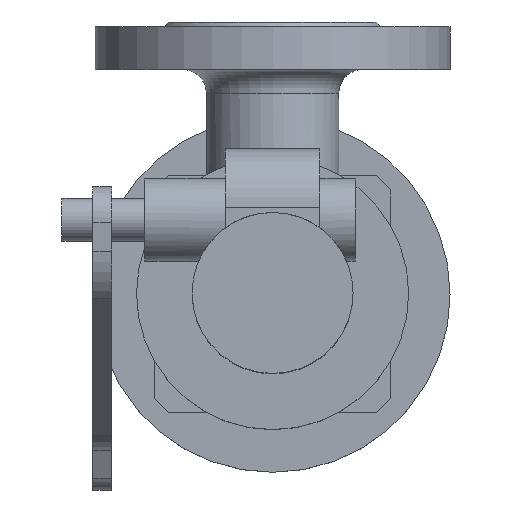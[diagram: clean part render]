
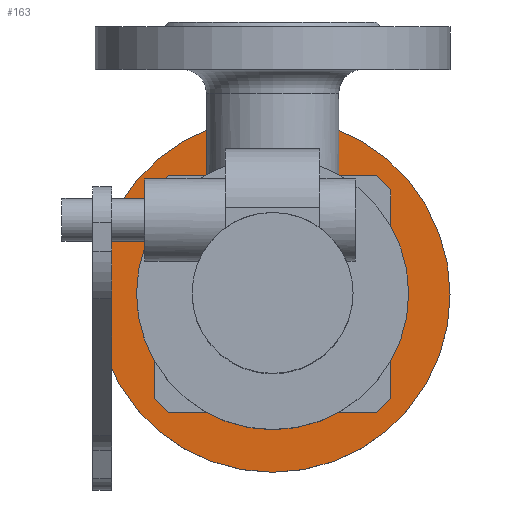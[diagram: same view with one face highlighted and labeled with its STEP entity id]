
A CAD part, top view. The second image highlights one B-rep face of the part: STEP entity #163.
In plain terms, the highlighted planar face has unit normal (0, 0, 1).
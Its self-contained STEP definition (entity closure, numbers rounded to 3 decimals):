
#163=ADVANCED_FACE('',(#1184,#1186,#1188,#1190,#1192,#1194),#1196,.T.);
#1184=FACE_BOUND('',#1185,.T.);
#1185=EDGE_LOOP('',(#2207));
#1186=FACE_BOUND('',#1187,.T.);
#1187=EDGE_LOOP('',(#2208));
#1188=FACE_BOUND('',#1189,.T.);
#1189=EDGE_LOOP('',(#2209));
#1190=FACE_BOUND('',#1191,.T.);
#1191=EDGE_LOOP('',(#2210));
#1192=FACE_BOUND('',#1193,.T.);
#1193=EDGE_LOOP('',(#2211));
#1194=FACE_BOUND('',#1195,.T.);
#1195=EDGE_LOOP('',(#2212));
#1196=PLANE('',#1197);
#1197=AXIS2_PLACEMENT_3D('',#1198,#1199,#1200);
#1198=CARTESIAN_POINT('',(0.,0.,20.));
#1199=DIRECTION('',(0.,0.,1.));
#1200=DIRECTION('',(0.,1.,0.));
#2207=ORIENTED_EDGE('',*,*,#2794,.F.);
#2208=ORIENTED_EDGE('',*,*,#2795,.T.);
#2209=ORIENTED_EDGE('',*,*,#2796,.T.);
#2210=ORIENTED_EDGE('',*,*,#2797,.T.);
#2211=ORIENTED_EDGE('',*,*,#2779,.T.);
#2212=ORIENTED_EDGE('',*,*,#2798,.T.);
#2779=EDGE_CURVE('',#3097,#3097,#3098,.T.);
#2794=EDGE_CURVE('',#3124,#3124,#3125,.T.);
#2795=EDGE_CURVE('',#3126,#3126,#3127,.T.);
#2796=EDGE_CURVE('',#3128,#3128,#3129,.T.);
#2797=EDGE_CURVE('',#3130,#3130,#3131,.T.);
#2798=EDGE_CURVE('',#3132,#3132,#3133,.T.);
#3097=VERTEX_POINT('',#3946);
#3098=CIRCLE('',#3947,38.);
#3124=VERTEX_POINT('',#4006);
#3125=CIRCLE('',#4007,75.);
#3126=VERTEX_POINT('',#4011);
#3127=CIRCLE('',#4012,9.);
#3128=VERTEX_POINT('',#4016);
#3129=CIRCLE('',#4017,9.);
#3130=VERTEX_POINT('',#4021);
#3131=CIRCLE('',#4022,9.);
#3132=VERTEX_POINT('',#4026);
#3133=CIRCLE('',#4027,9.);
#3946=CARTESIAN_POINT('',(0.,38.,20.));
#3947=AXIS2_PLACEMENT_3D('',#3948,#3949,#3950);
#3948=CARTESIAN_POINT('',(0.,0.,20.));
#3949=DIRECTION('',(0.,0.,-1.));
#3950=DIRECTION('',(0.,1.,0.));
#4006=CARTESIAN_POINT('',(0.,75.,20.));
#4007=AXIS2_PLACEMENT_3D('',#4008,#4009,#4010);
#4008=CARTESIAN_POINT('',(0.,0.,20.));
#4009=DIRECTION('',(0.,0.,-1.));
#4010=DIRECTION('',(0.,1.,0.));
#4011=CARTESIAN_POINT('',(38.891,-29.891,20.));
#4012=AXIS2_PLACEMENT_3D('',#4013,#4014,#4015);
#4013=CARTESIAN_POINT('',(38.891,-38.891,20.));
#4014=DIRECTION('',(0.,0.,-1.));
#4015=DIRECTION('',(0.,1.,0.));
#4016=CARTESIAN_POINT('',(-29.891,-38.891,20.));
#4017=AXIS2_PLACEMENT_3D('',#4018,#4019,#4020);
#4018=CARTESIAN_POINT('',(-38.891,-38.891,20.));
#4019=DIRECTION('',(0.,0.,-1.));
#4020=DIRECTION('',(1.,0.,0.));
#4021=CARTESIAN_POINT('',(-38.891,29.891,20.));
#4022=AXIS2_PLACEMENT_3D('',#4023,#4024,#4025);
#4023=CARTESIAN_POINT('',(-38.891,38.891,20.));
#4024=DIRECTION('',(0.,0.,-1.));
#4025=DIRECTION('',(0.,-1.,0.));
#4026=CARTESIAN_POINT('',(29.891,38.891,20.));
#4027=AXIS2_PLACEMENT_3D('',#4028,#4029,#4030);
#4028=CARTESIAN_POINT('',(38.891,38.891,20.));
#4029=DIRECTION('',(0.,0.,-1.));
#4030=DIRECTION('',(-1.,0.,0.));
